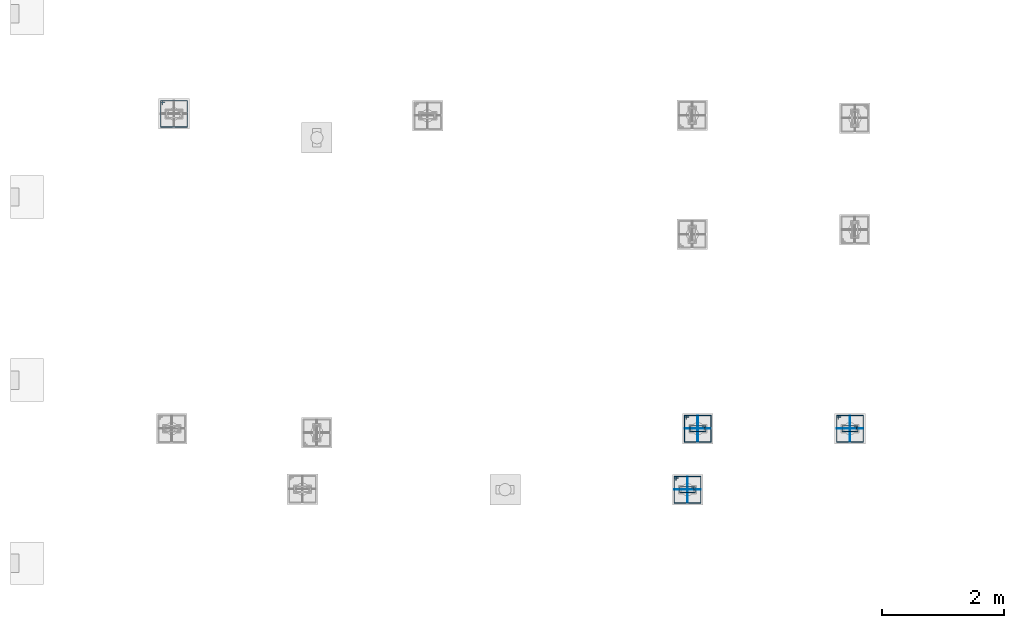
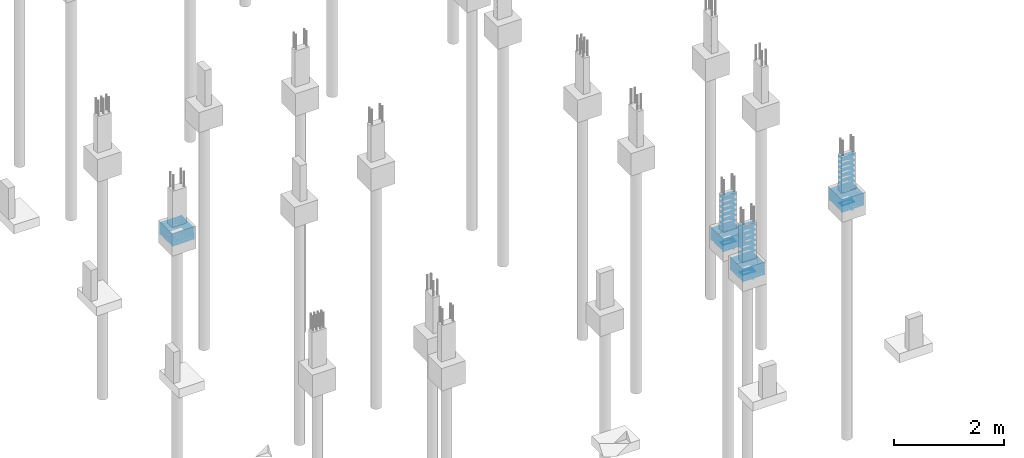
# One storey, part 70 of 119: 56 reinforcing bars.
"""IFC4 building model written with IfcOpenShell, lengths in centimetres."""

from ifc_helpers import new_model, entity, si_unit, derived_unit, frame, origin_with_axes, place, context, project, spatial, source, transform, mapped, element, save


model = new_model("IFC4")

# Units and contexts
model_context = context("Model", 3, precision=1e-05, world=origin_with_axes(), identifier="Body")
ifc_project = project(units=[si_unit("LENGTHUNIT", "METRE", prefix="CENTI"), si_unit("VOLUMEUNIT", "CUBIC_METRE"), si_unit("AREAUNIT", "SQUARE_METRE"), si_unit("POWERUNIT", "WATT"), si_unit("LUMINOUSFLUXUNIT", "LUMEN"), si_unit("ELECTRICCURRENTUNIT", "AMPERE"), si_unit("PRESSUREUNIT", "PASCAL", prefix="KILO"), si_unit("MASSUNIT", "GRAM", prefix="KILO"), si_unit("PLANEANGLEUNIT", "RADIAN"), derived_unit("VOLUMETRICFLOWRATEUNIT", [(si_unit("LENGTHUNIT", "METRE"), 3), (si_unit("TIMEUNIT", "SECOND"), -1)])], contexts=[model_context])

# Site, building, storey
site_placement = place(None, frame((-4000.0, 0.0, 0.0), z_axis=(0.0, 0.0, 1.0), x_axis=(1.0, 0.0, 0.0)))
site = spatial("IfcSite", under=ifc_project, at=site_placement, Name="PADRÃO")
building_placement = place(site_placement, frame((0.0, 0.0, -14.0)))
building = spatial("IfcBuilding", under=site, at=building_placement, Name="CRECHE PRÉ-ESCOLA TIPO 2")
storey_placement = place(building_placement, origin_with_axes())
storey = spatial("IfcBuildingStorey", under=building, at=storey_placement, Name="FUNDAÇÃO", CompositionType="ELEMENT", Elevation=-14.0)

# Reinforcing bars
shared_shape_1 = source(origin_with_axes(), model_context, "Body", "AdvancedSweptSolid", [
    entity("IfcSweptDiskSolid", entity("IfcCompositeCurve", [entity("IfcCompositeCurveSegment", "CONTINUOUS", True, entity("IfcPolyline", [entity("IfcCartesianPoint", [250.335, 1045.925, 0.0]), entity("IfcCartesianPoint", [250.335, 1052.185, 0.0])])), entity("IfcCompositeCurveSegment", "CONTINUOUS", True, entity("IfcPolyline", [entity("IfcCartesianPoint", [250.335, 1052.185, 0.0]), entity("IfcCartesianPoint", [247.815, 1052.185, 0.0])])), entity("IfcCompositeCurveSegment", "CONTINUOUS", True, entity("IfcPolyline", [entity("IfcCartesianPoint", [247.815, 1052.185, 0.0]), entity("IfcCartesianPoint", [247.815, 1008.815, 0.0])])), entity("IfcCompositeCurveSegment", "CONTINUOUS", True, entity("IfcPolyline", [entity("IfcCartesianPoint", [247.815, 1008.815, 0.0]), entity("IfcCartesianPoint", [291.185, 1008.815, 0.63])])), entity("IfcCompositeCurveSegment", "CONTINUOUS", True, entity("IfcPolyline", [entity("IfcCartesianPoint", [291.185, 1008.815, 0.63]), entity("IfcCartesianPoint", [291.185, 1052.185, 0.63])])), entity("IfcCompositeCurveSegment", "CONTINUOUS", True, entity("IfcPolyline", [entity("IfcCartesianPoint", [291.185, 1052.185, 0.63]), entity("IfcCartesianPoint", [247.815, 1052.185, 0.63])])), entity("IfcCompositeCurveSegment", "CONTINUOUS", True, entity("IfcPolyline", [entity("IfcCartesianPoint", [247.815, 1052.185, 0.63]), entity("IfcCartesianPoint", [247.815, 1049.665, 0.63])])), entity("IfcCompositeCurveSegment", "CONTINUOUS", True, entity("IfcPolyline", [entity("IfcCartesianPoint", [247.815, 1049.665, 0.63]), entity("IfcCartesianPoint", [254.075, 1049.665, 0.63])]))], False), 0.315),
])
for number, where, z_axis, x_axis, name in (
    (1, (0.0, 0.0, -97.875), (0.0, 0.0, 1.0), (1.0, 0.0, 0.0), "P116 - Blocos (estribos)"),
    (2, (0.0, 0.0, -103.525), (0.0, 0.0, 1.0), (1.0, 0.0, 0.0), "P116 - Blocos (estribos)"),
    (3, (0.0, 0.0, -109.175), (0.0, 0.0, 1.0), (1.0, 0.0, 0.0), "P116 - Blocos (estribos)"),
    (4, (0.0, 0.0, -86.575), (0.0, 0.0, 1.0), (1.0, 0.0, 0.0), "P116 - Blocos (estribos)"),
    (5, (0.0, 0.0, -92.225), (0.0, 0.0, 1.0), (1.0, 0.0, 0.0), "P116 - Blocos (estribos)"),
):
    element("IfcReinforcingBar", number, at=place(storey_placement, frame(where, z_axis=z_axis, x_axis=x_axis)), inside=storey, Name=name, BarLength=0.0, CrossSectionArea=3.1172453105e-05, NominalDiameter=0.63, PredefinedType="MAIN", context=model_context, shape_type="MappedRepresentation", body=[
        mapped(shared_shape_1, transform((0.0, 0.0, 0.0), scale=1.0)),
    ])
shared_shape_2 = source(origin_with_axes(), model_context, "Body", "AdvancedSweptSolid", [
    entity("IfcSweptDiskSolid", entity("IfcCompositeCurve", [entity("IfcCompositeCurveSegment", "CONTINUOUS", True, entity("IfcPolyline", [entity("IfcCartesianPoint", [4.25, 21.75, 0.0]), entity("IfcCartesianPoint", [4.25, 27.75, 0.0])])), entity("IfcCompositeCurveSegment", "CONTINUOUS", True, entity("IfcPolyline", [entity("IfcCartesianPoint", [4.25, 27.75, 0.0]), entity("IfcCartesianPoint", [2.25, 27.75, 0.0])])), entity("IfcCompositeCurveSegment", "CONTINUOUS", True, entity("IfcPolyline", [entity("IfcCartesianPoint", [2.25, 27.75, 0.0]), entity("IfcCartesianPoint", [2.25, 2.25, 0.0])])), entity("IfcCompositeCurveSegment", "CONTINUOUS", True, entity("IfcPolyline", [entity("IfcCartesianPoint", [2.25, 2.25, 0.0]), entity("IfcCartesianPoint", [11.75, 2.25, 0.0])])), entity("IfcCompositeCurveSegment", "CONTINUOUS", True, entity("IfcPolyline", [entity("IfcCartesianPoint", [11.75, 2.25, 0.0]), entity("IfcCartesianPoint", [11.75, 27.75, -0.5])])), entity("IfcCompositeCurveSegment", "CONTINUOUS", True, entity("IfcPolyline", [entity("IfcCartesianPoint", [11.75, 27.75, -0.5]), entity("IfcCartesianPoint", [2.25, 27.75, -0.5])])), entity("IfcCompositeCurveSegment", "CONTINUOUS", True, entity("IfcPolyline", [entity("IfcCartesianPoint", [2.25, 27.75, -0.5]), entity("IfcCartesianPoint", [2.25, 25.75, -0.5])])), entity("IfcCompositeCurveSegment", "CONTINUOUS", True, entity("IfcPolyline", [entity("IfcCartesianPoint", [2.25, 25.75, -0.5]), entity("IfcCartesianPoint", [8.25, 25.75, -0.5])]))], False), 0.25),
])
for number, where, z_axis, x_axis, name in (
    (6, (1112.72, 522.01, -63.25), (0.0, 0.0, 1.0), (0.0, -1.0, 0.0), "P137 - Estribo"),
    (7, (1112.72, 522.01, -51.75), (0.0, 0.0, 1.0), (0.0, -1.0, 0.0), "P137 - Estribo"),
    (8, (1112.72, 522.01, -74.75), (0.0, 0.0, 1.0), (0.0, -1.0, 0.0), "P137 - Estribo"),
    (9, (1112.72, 522.01, -86.25), (0.0, 0.0, 1.0), (0.0, -1.0, 0.0), "P137 - Estribo"),
    (10, (1112.72, 522.01, -97.75), (0.0, 0.0, 1.0), (0.0, -1.0, 0.0), "P137 - Estribo"),
    (11, (1112.72, 522.01, -109.25), (0.0, 0.0, 1.0), (0.0, -1.0, 0.0), "P137 - Estribo"),
    (12, (1112.72, 522.01, -40.25), (0.0, 0.0, 1.0), (0.0, -1.0, 0.0), "P137 - Estribo"),
    (13, (1112.72, 522.01, -28.75), (0.0, 0.0, 1.0), (0.0, -1.0, 0.0), "P137 - Estribo"),
    (14, (1112.72, 522.01, -17.25), (0.0, 0.0, 1.0), (0.0, -1.0, 0.0), "P137 - Estribo"),
    (15, (1112.72, 522.01, -5.75), (0.0, 0.0, 1.0), (0.0, -1.0, 0.0), "P137 - Estribo"),
):
    element("IfcReinforcingBar", number, at=place(storey_placement, frame(where, z_axis=z_axis, x_axis=x_axis)), inside=storey, Name=name, BarLength=0.0, CrossSectionArea=1.9634954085e-05, NominalDiameter=0.5, PredefinedType="MAIN", context=model_context, shape_type="MappedRepresentation", body=[
        mapped(shared_shape_2, transform((0.0, 0.0, 0.0), scale=1.0)),
    ])
shared_shape_3 = source(origin_with_axes(), model_context, "Body", "AdvancedSweptSolid", [
    entity("IfcSweptDiskSolid", entity("IfcCompositeCurve", [entity("IfcCompositeCurveSegment", "CONTINUOUS", True, entity("IfcPolyline", [entity("IfcCartesianPoint", [1108.555, 530.435, 0.0]), entity("IfcCartesianPoint", [1108.555, 536.695, 0.0])])), entity("IfcCompositeCurveSegment", "CONTINUOUS", True, entity("IfcPolyline", [entity("IfcCartesianPoint", [1108.555, 536.695, 0.0]), entity("IfcCartesianPoint", [1106.035, 536.695, 0.0])])), entity("IfcCompositeCurveSegment", "CONTINUOUS", True, entity("IfcPolyline", [entity("IfcCartesianPoint", [1106.035, 536.695, 0.0]), entity("IfcCartesianPoint", [1106.035, 493.325, 0.0])])), entity("IfcCompositeCurveSegment", "CONTINUOUS", True, entity("IfcPolyline", [entity("IfcCartesianPoint", [1106.035, 493.325, 0.0]), entity("IfcCartesianPoint", [1149.405, 493.325, 0.63])])), entity("IfcCompositeCurveSegment", "CONTINUOUS", True, entity("IfcPolyline", [entity("IfcCartesianPoint", [1149.405, 493.325, 0.63]), entity("IfcCartesianPoint", [1149.405, 536.695, 0.63])])), entity("IfcCompositeCurveSegment", "CONTINUOUS", True, entity("IfcPolyline", [entity("IfcCartesianPoint", [1149.405, 536.695, 0.63]), entity("IfcCartesianPoint", [1106.035, 536.695, 0.63])])), entity("IfcCompositeCurveSegment", "CONTINUOUS", True, entity("IfcPolyline", [entity("IfcCartesianPoint", [1106.035, 536.695, 0.63]), entity("IfcCartesianPoint", [1106.035, 534.175, 0.63])])), entity("IfcCompositeCurveSegment", "CONTINUOUS", True, entity("IfcPolyline", [entity("IfcCartesianPoint", [1106.035, 534.175, 0.63]), entity("IfcCartesianPoint", [1112.295, 534.175, 0.63])]))], False), 0.315),
])
for number, where, z_axis, x_axis, name in (
    (16, (0.0, 0.0, -109.175), (0.0, 0.0, 1.0), (1.0, 0.0, 0.0), "P137 - Blocos (estribos)"),
    (17, (0.0, 0.0, -92.225), (0.0, 0.0, 1.0), (1.0, 0.0, 0.0), "P137 - Blocos (estribos)"),
    (18, (0.0, 0.0, -86.575), (0.0, 0.0, 1.0), (1.0, 0.0, 0.0), "P137 - Blocos (estribos)"),
    (19, (0.0, 0.0, -103.525), (0.0, 0.0, 1.0), (1.0, 0.0, 0.0), "P137 - Blocos (estribos)"),
    (20, (0.0, 0.0, -97.875), (0.0, 0.0, 1.0), (1.0, 0.0, 0.0), "P137 - Blocos (estribos)"),
):
    element("IfcReinforcingBar", number, at=place(storey_placement, frame(where, z_axis=z_axis, x_axis=x_axis)), inside=storey, Name=name, BarLength=0.0, CrossSectionArea=3.1172453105e-05, NominalDiameter=0.63, PredefinedType="MAIN", context=model_context, shape_type="MappedRepresentation", body=[
        mapped(shared_shape_3, transform((0.0, 0.0, 0.0), scale=1.0)),
    ])
shared_shape_4 = source(origin_with_axes(), model_context, "Body", "AdvancedSweptSolid", [
    entity("IfcSweptDiskSolid", entity("IfcCompositeCurve", [entity("IfcCompositeCurveSegment", "CONTINUOUS", True, entity("IfcPolyline", [entity("IfcCartesianPoint", [-15.12, -12.0, 0.0]), entity("IfcCartesianPoint", [-21.12, -12.0, 0.0])])), entity("IfcCompositeCurveSegment", "CONTINUOUS", True, entity("IfcPolyline", [entity("IfcCartesianPoint", [-21.12, -12.0, 0.0]), entity("IfcCartesianPoint", [-21.12, -14.0, 0.0])])), entity("IfcCompositeCurveSegment", "CONTINUOUS", True, entity("IfcPolyline", [entity("IfcCartesianPoint", [-21.12, -14.0, 0.0]), entity("IfcCartesianPoint", [21.12, -14.0, 0.0])])), entity("IfcCompositeCurveSegment", "CONTINUOUS", True, entity("IfcPolyline", [entity("IfcCartesianPoint", [21.12, -14.0, 0.0]), entity("IfcCartesianPoint", [21.12, 14.0, 0.5])])), entity("IfcCompositeCurveSegment", "CONTINUOUS", True, entity("IfcPolyline", [entity("IfcCartesianPoint", [21.12, 14.0, 0.5]), entity("IfcCartesianPoint", [-21.12, 14.0, 0.5])])), entity("IfcCompositeCurveSegment", "CONTINUOUS", True, entity("IfcPolyline", [entity("IfcCartesianPoint", [-21.12, 14.0, 0.5]), entity("IfcCartesianPoint", [-21.12, -14.0, 0.5])])), entity("IfcCompositeCurveSegment", "CONTINUOUS", True, entity("IfcPolyline", [entity("IfcCartesianPoint", [-21.12, -14.0, 0.5]), entity("IfcCartesianPoint", [-19.12, -14.0, 0.5])])), entity("IfcCompositeCurveSegment", "CONTINUOUS", True, entity("IfcPolyline", [entity("IfcCartesianPoint", [-19.12, -14.0, 0.5]), entity("IfcCartesianPoint", [-19.12, -8.0, 0.5])]))], False), 0.25),
])
reinforcing_bar_1_placement = place(storey_placement, frame((1127.72, 515.01, -97.75), z_axis=(0.0, 1.0, 0.0), x_axis=(1.0, 0.0, 0.0)))
element("IfcReinforcingBar", 21, at=reinforcing_bar_1_placement, inside=storey, Name="P137 - Blocos (estribos)", BarLength=0.0, CrossSectionArea=1.9634954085e-05, NominalDiameter=0.5, PredefinedType="MAIN", context=model_context, shape_type="MappedRepresentation", body=[
    mapped(shared_shape_4, transform((0.0, 0.0, 0.0), scale=1.0)),
])
shared_shape_5 = source(origin_with_axes(), model_context, "Body", "AdvancedSweptSolid", [
    entity("IfcSweptDiskSolid", entity("IfcCompositeCurve", [entity("IfcCompositeCurveSegment", "CONTINUOUS", True, entity("IfcPolyline", [entity("IfcCartesianPoint", [-15.12, -12.0, 0.0]), entity("IfcCartesianPoint", [-21.12, -12.0, 0.0])])), entity("IfcCompositeCurveSegment", "CONTINUOUS", True, entity("IfcPolyline", [entity("IfcCartesianPoint", [-21.12, -12.0, 0.0]), entity("IfcCartesianPoint", [-21.12, -14.0, 0.0])])), entity("IfcCompositeCurveSegment", "CONTINUOUS", True, entity("IfcPolyline", [entity("IfcCartesianPoint", [-21.12, -14.0, 0.0]), entity("IfcCartesianPoint", [21.12, -14.0, 0.0])])), entity("IfcCompositeCurveSegment", "CONTINUOUS", True, entity("IfcPolyline", [entity("IfcCartesianPoint", [21.12, -14.0, 0.0]), entity("IfcCartesianPoint", [21.12, 14.0, 0.5])])), entity("IfcCompositeCurveSegment", "CONTINUOUS", True, entity("IfcPolyline", [entity("IfcCartesianPoint", [21.12, 14.0, 0.5]), entity("IfcCartesianPoint", [-21.12, 14.0, 0.5])])), entity("IfcCompositeCurveSegment", "CONTINUOUS", True, entity("IfcPolyline", [entity("IfcCartesianPoint", [-21.12, 14.0, 0.5]), entity("IfcCartesianPoint", [-21.12, -14.0, 0.5])])), entity("IfcCompositeCurveSegment", "CONTINUOUS", True, entity("IfcPolyline", [entity("IfcCartesianPoint", [-21.12, -14.0, 0.5]), entity("IfcCartesianPoint", [-19.12, -14.0, 0.5])])), entity("IfcCompositeCurveSegment", "CONTINUOUS", True, entity("IfcPolyline", [entity("IfcCartesianPoint", [-19.12, -14.0, 0.5]), entity("IfcCartesianPoint", [-19.12, -8.0, 0.5])]))], False), 0.25),
])
reinforcing_bar_2_placement = place(storey_placement, frame((1127.72, 515.01, -97.75), z_axis=(-1.0, 0.0, 0.0), x_axis=(0.0, 1.0, 0.0)))
element("IfcReinforcingBar", 22, at=reinforcing_bar_2_placement, inside=storey, Name="P137 - Blocos (estribos)", BarLength=0.0, CrossSectionArea=1.9634954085e-05, NominalDiameter=0.5, PredefinedType="MAIN", context=model_context, shape_type="MappedRepresentation", body=[
    mapped(shared_shape_5, transform((0.0, 0.0, 0.0), scale=1.0)),
])
shared_shape_6 = source(origin_with_axes(), model_context, "Body", "AdvancedSweptSolid", [
    entity("IfcSweptDiskSolid", entity("IfcCompositeCurve", [entity("IfcCompositeCurveSegment", "CONTINUOUS", True, entity("IfcPolyline", [entity("IfcCartesianPoint", [4.25, 21.75, 0.0]), entity("IfcCartesianPoint", [4.25, 27.75, 0.0])])), entity("IfcCompositeCurveSegment", "CONTINUOUS", True, entity("IfcPolyline", [entity("IfcCartesianPoint", [4.25, 27.75, 0.0]), entity("IfcCartesianPoint", [2.25, 27.75, 0.0])])), entity("IfcCompositeCurveSegment", "CONTINUOUS", True, entity("IfcPolyline", [entity("IfcCartesianPoint", [2.25, 27.75, 0.0]), entity("IfcCartesianPoint", [2.25, 2.25, 0.0])])), entity("IfcCompositeCurveSegment", "CONTINUOUS", True, entity("IfcPolyline", [entity("IfcCartesianPoint", [2.25, 2.25, 0.0]), entity("IfcCartesianPoint", [11.75, 2.25, 0.0])])), entity("IfcCompositeCurveSegment", "CONTINUOUS", True, entity("IfcPolyline", [entity("IfcCartesianPoint", [11.75, 2.25, 0.0]), entity("IfcCartesianPoint", [11.75, 27.75, -0.5])])), entity("IfcCompositeCurveSegment", "CONTINUOUS", True, entity("IfcPolyline", [entity("IfcCartesianPoint", [11.75, 27.75, -0.5]), entity("IfcCartesianPoint", [2.25, 27.75, -0.5])])), entity("IfcCompositeCurveSegment", "CONTINUOUS", True, entity("IfcPolyline", [entity("IfcCartesianPoint", [2.25, 27.75, -0.5]), entity("IfcCartesianPoint", [2.25, 25.75, -0.5])])), entity("IfcCompositeCurveSegment", "CONTINUOUS", True, entity("IfcPolyline", [entity("IfcCartesianPoint", [2.25, 25.75, -0.5]), entity("IfcCartesianPoint", [8.25, 25.75, -0.5])]))], False), 0.25),
])
for number, where, z_axis, x_axis, name in (
    (23, (1361.84, 522.01, -97.75), (0.0, 0.0, 1.0), (0.0, -1.0, 0.0), "P138 - Estribo"),
    (24, (1361.84, 522.01, -74.75), (0.0, 0.0, 1.0), (0.0, -1.0, 0.0), "P138 - Estribo"),
    (25, (1361.84, 522.01, -5.75), (0.0, 0.0, 1.0), (0.0, -1.0, 0.0), "P138 - Estribo"),
    (26, (1361.84, 522.01, -86.25), (0.0, 0.0, 1.0), (0.0, -1.0, 0.0), "P138 - Estribo"),
    (27, (1361.84, 522.01, -40.25), (0.0, 0.0, 1.0), (0.0, -1.0, 0.0), "P138 - Estribo"),
    (28, (1361.84, 522.01, -63.25), (0.0, 0.0, 1.0), (0.0, -1.0, 0.0), "P138 - Estribo"),
    (29, (1361.84, 522.01, -28.75), (0.0, 0.0, 1.0), (0.0, -1.0, 0.0), "P138 - Estribo"),
    (30, (1361.84, 522.01, -17.25), (0.0, 0.0, 1.0), (0.0, -1.0, 0.0), "P138 - Estribo"),
    (31, (1361.84, 522.01, -51.75), (0.0, 0.0, 1.0), (0.0, -1.0, 0.0), "P138 - Estribo"),
    (32, (1361.84, 522.01, -109.25), (0.0, 0.0, 1.0), (0.0, -1.0, 0.0), "P138 - Estribo"),
):
    element("IfcReinforcingBar", number, at=place(storey_placement, frame(where, z_axis=z_axis, x_axis=x_axis)), inside=storey, Name=name, BarLength=0.0, CrossSectionArea=1.9634954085e-05, NominalDiameter=0.5, PredefinedType="MAIN", context=model_context, shape_type="MappedRepresentation", body=[
        mapped(shared_shape_6, transform((0.0, 0.0, 0.0), scale=1.0)),
    ])
shared_shape_7 = source(origin_with_axes(), model_context, "Body", "AdvancedSweptSolid", [
    entity("IfcSweptDiskSolid", entity("IfcCompositeCurve", [entity("IfcCompositeCurveSegment", "CONTINUOUS", True, entity("IfcPolyline", [entity("IfcCartesianPoint", [1357.675, 530.435, 0.0]), entity("IfcCartesianPoint", [1357.675, 536.695, 0.0])])), entity("IfcCompositeCurveSegment", "CONTINUOUS", True, entity("IfcPolyline", [entity("IfcCartesianPoint", [1357.675, 536.695, 0.0]), entity("IfcCartesianPoint", [1355.155, 536.695, 0.0])])), entity("IfcCompositeCurveSegment", "CONTINUOUS", True, entity("IfcPolyline", [entity("IfcCartesianPoint", [1355.155, 536.695, 0.0]), entity("IfcCartesianPoint", [1355.155, 493.325, 0.0])])), entity("IfcCompositeCurveSegment", "CONTINUOUS", True, entity("IfcPolyline", [entity("IfcCartesianPoint", [1355.155, 493.325, 0.0]), entity("IfcCartesianPoint", [1398.525, 493.325, 0.63])])), entity("IfcCompositeCurveSegment", "CONTINUOUS", True, entity("IfcPolyline", [entity("IfcCartesianPoint", [1398.525, 493.325, 0.63]), entity("IfcCartesianPoint", [1398.525, 536.695, 0.63])])), entity("IfcCompositeCurveSegment", "CONTINUOUS", True, entity("IfcPolyline", [entity("IfcCartesianPoint", [1398.525, 536.695, 0.63]), entity("IfcCartesianPoint", [1355.155, 536.695, 0.63])])), entity("IfcCompositeCurveSegment", "CONTINUOUS", True, entity("IfcPolyline", [entity("IfcCartesianPoint", [1355.155, 536.695, 0.63]), entity("IfcCartesianPoint", [1355.155, 534.175, 0.63])])), entity("IfcCompositeCurveSegment", "CONTINUOUS", True, entity("IfcPolyline", [entity("IfcCartesianPoint", [1355.155, 534.175, 0.63]), entity("IfcCartesianPoint", [1361.415, 534.175, 0.63])]))], False), 0.315),
])
for number, where, z_axis, x_axis, name in (
    (33, (0.0, 0.0, -103.525), (0.0, 0.0, 1.0), (1.0, 0.0, 0.0), "P138 - Blocos (estribos)"),
    (34, (0.0, 0.0, -97.875), (0.0, 0.0, 1.0), (1.0, 0.0, 0.0), "P138 - Blocos (estribos)"),
    (35, (0.0, 0.0, -92.225), (0.0, 0.0, 1.0), (1.0, 0.0, 0.0), "P138 - Blocos (estribos)"),
    (36, (0.0, 0.0, -86.575), (0.0, 0.0, 1.0), (1.0, 0.0, 0.0), "P138 - Blocos (estribos)"),
    (37, (0.0, 0.0, -109.175), (0.0, 0.0, 1.0), (1.0, 0.0, 0.0), "P138 - Blocos (estribos)"),
):
    element("IfcReinforcingBar", number, at=place(storey_placement, frame(where, z_axis=z_axis, x_axis=x_axis)), inside=storey, Name=name, BarLength=0.0, CrossSectionArea=3.1172453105e-05, NominalDiameter=0.63, PredefinedType="MAIN", context=model_context, shape_type="MappedRepresentation", body=[
        mapped(shared_shape_7, transform((0.0, 0.0, 0.0), scale=1.0)),
    ])
shared_shape_8 = source(origin_with_axes(), model_context, "Body", "AdvancedSweptSolid", [
    entity("IfcSweptDiskSolid", entity("IfcCompositeCurve", [entity("IfcCompositeCurveSegment", "CONTINUOUS", True, entity("IfcPolyline", [entity("IfcCartesianPoint", [-15.12, -12.0, 0.0]), entity("IfcCartesianPoint", [-21.12, -12.0, 0.0])])), entity("IfcCompositeCurveSegment", "CONTINUOUS", True, entity("IfcPolyline", [entity("IfcCartesianPoint", [-21.12, -12.0, 0.0]), entity("IfcCartesianPoint", [-21.12, -14.0, 0.0])])), entity("IfcCompositeCurveSegment", "CONTINUOUS", True, entity("IfcPolyline", [entity("IfcCartesianPoint", [-21.12, -14.0, 0.0]), entity("IfcCartesianPoint", [21.12, -14.0, 0.0])])), entity("IfcCompositeCurveSegment", "CONTINUOUS", True, entity("IfcPolyline", [entity("IfcCartesianPoint", [21.12, -14.0, 0.0]), entity("IfcCartesianPoint", [21.12, 14.0, 0.5])])), entity("IfcCompositeCurveSegment", "CONTINUOUS", True, entity("IfcPolyline", [entity("IfcCartesianPoint", [21.12, 14.0, 0.5]), entity("IfcCartesianPoint", [-21.12, 14.0, 0.5])])), entity("IfcCompositeCurveSegment", "CONTINUOUS", True, entity("IfcPolyline", [entity("IfcCartesianPoint", [-21.12, 14.0, 0.5]), entity("IfcCartesianPoint", [-21.12, -14.0, 0.5])])), entity("IfcCompositeCurveSegment", "CONTINUOUS", True, entity("IfcPolyline", [entity("IfcCartesianPoint", [-21.12, -14.0, 0.5]), entity("IfcCartesianPoint", [-19.12, -14.0, 0.5])])), entity("IfcCompositeCurveSegment", "CONTINUOUS", True, entity("IfcPolyline", [entity("IfcCartesianPoint", [-19.12, -14.0, 0.5]), entity("IfcCartesianPoint", [-19.12, -8.0, 0.5])]))], False), 0.25),
])
reinforcing_bar_3_placement = place(storey_placement, frame((1376.84, 515.01, -97.75), z_axis=(0.0, 1.0, 0.0), x_axis=(1.0, 0.0, 0.0)))
element("IfcReinforcingBar", 38, at=reinforcing_bar_3_placement, inside=storey, Name="P138 - Blocos (estribos)", BarLength=0.0, CrossSectionArea=1.9634954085e-05, NominalDiameter=0.5, PredefinedType="MAIN", context=model_context, shape_type="MappedRepresentation", body=[
    mapped(shared_shape_8, transform((0.0, 0.0, 0.0), scale=1.0)),
])
shared_shape_9 = source(origin_with_axes(), model_context, "Body", "AdvancedSweptSolid", [
    entity("IfcSweptDiskSolid", entity("IfcCompositeCurve", [entity("IfcCompositeCurveSegment", "CONTINUOUS", True, entity("IfcPolyline", [entity("IfcCartesianPoint", [-15.12, -12.0, 0.0]), entity("IfcCartesianPoint", [-21.12, -12.0, 0.0])])), entity("IfcCompositeCurveSegment", "CONTINUOUS", True, entity("IfcPolyline", [entity("IfcCartesianPoint", [-21.12, -12.0, 0.0]), entity("IfcCartesianPoint", [-21.12, -14.0, 0.0])])), entity("IfcCompositeCurveSegment", "CONTINUOUS", True, entity("IfcPolyline", [entity("IfcCartesianPoint", [-21.12, -14.0, 0.0]), entity("IfcCartesianPoint", [21.12, -14.0, 0.0])])), entity("IfcCompositeCurveSegment", "CONTINUOUS", True, entity("IfcPolyline", [entity("IfcCartesianPoint", [21.12, -14.0, 0.0]), entity("IfcCartesianPoint", [21.12, 14.0, 0.5])])), entity("IfcCompositeCurveSegment", "CONTINUOUS", True, entity("IfcPolyline", [entity("IfcCartesianPoint", [21.12, 14.0, 0.5]), entity("IfcCartesianPoint", [-21.12, 14.0, 0.5])])), entity("IfcCompositeCurveSegment", "CONTINUOUS", True, entity("IfcPolyline", [entity("IfcCartesianPoint", [-21.12, 14.0, 0.5]), entity("IfcCartesianPoint", [-21.12, -14.0, 0.5])])), entity("IfcCompositeCurveSegment", "CONTINUOUS", True, entity("IfcPolyline", [entity("IfcCartesianPoint", [-21.12, -14.0, 0.5]), entity("IfcCartesianPoint", [-19.12, -14.0, 0.5])])), entity("IfcCompositeCurveSegment", "CONTINUOUS", True, entity("IfcPolyline", [entity("IfcCartesianPoint", [-19.12, -14.0, 0.5]), entity("IfcCartesianPoint", [-19.12, -8.0, 0.5])]))], False), 0.25),
])
reinforcing_bar_4_placement = place(storey_placement, frame((1376.84, 515.01, -97.75), z_axis=(-1.0, 0.0, 0.0), x_axis=(0.0, 1.0, 0.0)))
element("IfcReinforcingBar", 39, at=reinforcing_bar_4_placement, inside=storey, Name="P138 - Blocos (estribos)", BarLength=0.0, CrossSectionArea=1.9634954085e-05, NominalDiameter=0.5, PredefinedType="MAIN", context=model_context, shape_type="MappedRepresentation", body=[
    mapped(shared_shape_9, transform((0.0, 0.0, 0.0), scale=1.0)),
])
shared_shape_10 = source(origin_with_axes(), model_context, "Body", "AdvancedSweptSolid", [
    entity("IfcSweptDiskSolid", entity("IfcCompositeCurve", [entity("IfcCompositeCurveSegment", "CONTINUOUS", True, entity("IfcPolyline", [entity("IfcCartesianPoint", [4.25, 21.75, 0.0]), entity("IfcCartesianPoint", [4.25, 27.75, 0.0])])), entity("IfcCompositeCurveSegment", "CONTINUOUS", True, entity("IfcPolyline", [entity("IfcCartesianPoint", [4.25, 27.75, 0.0]), entity("IfcCartesianPoint", [2.25, 27.75, 0.0])])), entity("IfcCompositeCurveSegment", "CONTINUOUS", True, entity("IfcPolyline", [entity("IfcCartesianPoint", [2.25, 27.75, 0.0]), entity("IfcCartesianPoint", [2.25, 2.25, 0.0])])), entity("IfcCompositeCurveSegment", "CONTINUOUS", True, entity("IfcPolyline", [entity("IfcCartesianPoint", [2.25, 2.25, 0.0]), entity("IfcCartesianPoint", [11.75, 2.25, 0.0])])), entity("IfcCompositeCurveSegment", "CONTINUOUS", True, entity("IfcPolyline", [entity("IfcCartesianPoint", [11.75, 2.25, 0.0]), entity("IfcCartesianPoint", [11.75, 27.75, -0.5])])), entity("IfcCompositeCurveSegment", "CONTINUOUS", True, entity("IfcPolyline", [entity("IfcCartesianPoint", [11.75, 27.75, -0.5]), entity("IfcCartesianPoint", [2.25, 27.75, -0.5])])), entity("IfcCompositeCurveSegment", "CONTINUOUS", True, entity("IfcPolyline", [entity("IfcCartesianPoint", [2.25, 27.75, -0.5]), entity("IfcCartesianPoint", [2.25, 25.75, -0.5])])), entity("IfcCompositeCurveSegment", "CONTINUOUS", True, entity("IfcPolyline", [entity("IfcCartesianPoint", [2.25, 25.75, -0.5]), entity("IfcCartesianPoint", [8.25, 25.75, -0.5])]))], False), 0.25),
])
for number, where, z_axis, x_axis, name in (
    (40, (1095.72, 422.01, -109.25), (0.0, 0.0, 1.0), (0.0, -1.0, 0.0), "P145 - Estribo"),
    (41, (1095.72, 422.01, -28.75), (0.0, 0.0, 1.0), (0.0, -1.0, 0.0), "P145 - Estribo"),
    (42, (1095.72, 422.01, -5.75), (0.0, 0.0, 1.0), (0.0, -1.0, 0.0), "P145 - Estribo"),
    (43, (1095.72, 422.01, -17.25), (0.0, 0.0, 1.0), (0.0, -1.0, 0.0), "P145 - Estribo"),
    (44, (1095.72, 422.01, -40.25), (0.0, 0.0, 1.0), (0.0, -1.0, 0.0), "P145 - Estribo"),
    (45, (1095.72, 422.01, -51.75), (0.0, 0.0, 1.0), (0.0, -1.0, 0.0), "P145 - Estribo"),
    (46, (1095.72, 422.01, -63.25), (0.0, 0.0, 1.0), (0.0, -1.0, 0.0), "P145 - Estribo"),
    (47, (1095.72, 422.01, -74.75), (0.0, 0.0, 1.0), (0.0, -1.0, 0.0), "P145 - Estribo"),
    (48, (1095.72, 422.01, -86.25), (0.0, 0.0, 1.0), (0.0, -1.0, 0.0), "P145 - Estribo"),
    (49, (1095.72, 422.01, -97.75), (0.0, 0.0, 1.0), (0.0, -1.0, 0.0), "P145 - Estribo"),
):
    element("IfcReinforcingBar", number, at=place(storey_placement, frame(where, z_axis=z_axis, x_axis=x_axis)), inside=storey, Name=name, BarLength=0.0, CrossSectionArea=1.9634954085e-05, NominalDiameter=0.5, PredefinedType="MAIN", context=model_context, shape_type="MappedRepresentation", body=[
        mapped(shared_shape_10, transform((0.0, 0.0, 0.0), scale=1.0)),
    ])
shared_shape_11 = source(origin_with_axes(), model_context, "Body", "AdvancedSweptSolid", [
    entity("IfcSweptDiskSolid", entity("IfcCompositeCurve", [entity("IfcCompositeCurveSegment", "CONTINUOUS", True, entity("IfcPolyline", [entity("IfcCartesianPoint", [1091.555, 430.435, 0.0]), entity("IfcCartesianPoint", [1091.555, 436.695, 0.0])])), entity("IfcCompositeCurveSegment", "CONTINUOUS", True, entity("IfcPolyline", [entity("IfcCartesianPoint", [1091.555, 436.695, 0.0]), entity("IfcCartesianPoint", [1089.035, 436.695, 0.0])])), entity("IfcCompositeCurveSegment", "CONTINUOUS", True, entity("IfcPolyline", [entity("IfcCartesianPoint", [1089.035, 436.695, 0.0]), entity("IfcCartesianPoint", [1089.035, 393.325, 0.0])])), entity("IfcCompositeCurveSegment", "CONTINUOUS", True, entity("IfcPolyline", [entity("IfcCartesianPoint", [1089.035, 393.325, 0.0]), entity("IfcCartesianPoint", [1132.405, 393.325, 0.63])])), entity("IfcCompositeCurveSegment", "CONTINUOUS", True, entity("IfcPolyline", [entity("IfcCartesianPoint", [1132.405, 393.325, 0.63]), entity("IfcCartesianPoint", [1132.405, 436.695, 0.63])])), entity("IfcCompositeCurveSegment", "CONTINUOUS", True, entity("IfcPolyline", [entity("IfcCartesianPoint", [1132.405, 436.695, 0.63]), entity("IfcCartesianPoint", [1089.035, 436.695, 0.63])])), entity("IfcCompositeCurveSegment", "CONTINUOUS", True, entity("IfcPolyline", [entity("IfcCartesianPoint", [1089.035, 436.695, 0.63]), entity("IfcCartesianPoint", [1089.035, 434.175, 0.63])])), entity("IfcCompositeCurveSegment", "CONTINUOUS", True, entity("IfcPolyline", [entity("IfcCartesianPoint", [1089.035, 434.175, 0.63]), entity("IfcCartesianPoint", [1095.295, 434.175, 0.63])]))], False), 0.315),
])
for number, where, z_axis, x_axis, name in (
    (50, (0.0, 0.0, -97.875), (0.0, 0.0, 1.0), (1.0, 0.0, 0.0), "P145 - Blocos (estribos)"),
    (51, (0.0, 0.0, -92.225), (0.0, 0.0, 1.0), (1.0, 0.0, 0.0), "P145 - Blocos (estribos)"),
    (52, (0.0, 0.0, -86.575), (0.0, 0.0, 1.0), (1.0, 0.0, 0.0), "P145 - Blocos (estribos)"),
    (53, (0.0, 0.0, -109.175), (0.0, 0.0, 1.0), (1.0, 0.0, 0.0), "P145 - Blocos (estribos)"),
    (54, (0.0, 0.0, -103.525), (0.0, 0.0, 1.0), (1.0, 0.0, 0.0), "P145 - Blocos (estribos)"),
):
    element("IfcReinforcingBar", number, at=place(storey_placement, frame(where, z_axis=z_axis, x_axis=x_axis)), inside=storey, Name=name, BarLength=0.0, CrossSectionArea=3.1172453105e-05, NominalDiameter=0.63, PredefinedType="MAIN", context=model_context, shape_type="MappedRepresentation", body=[
        mapped(shared_shape_11, transform((0.0, 0.0, 0.0), scale=1.0)),
    ])
shared_shape_12 = source(origin_with_axes(), model_context, "Body", "AdvancedSweptSolid", [
    entity("IfcSweptDiskSolid", entity("IfcCompositeCurve", [entity("IfcCompositeCurveSegment", "CONTINUOUS", True, entity("IfcPolyline", [entity("IfcCartesianPoint", [-15.12, -12.0, 0.0]), entity("IfcCartesianPoint", [-21.12, -12.0, 0.0])])), entity("IfcCompositeCurveSegment", "CONTINUOUS", True, entity("IfcPolyline", [entity("IfcCartesianPoint", [-21.12, -12.0, 0.0]), entity("IfcCartesianPoint", [-21.12, -14.0, 0.0])])), entity("IfcCompositeCurveSegment", "CONTINUOUS", True, entity("IfcPolyline", [entity("IfcCartesianPoint", [-21.12, -14.0, 0.0]), entity("IfcCartesianPoint", [21.12, -14.0, 0.0])])), entity("IfcCompositeCurveSegment", "CONTINUOUS", True, entity("IfcPolyline", [entity("IfcCartesianPoint", [21.12, -14.0, 0.0]), entity("IfcCartesianPoint", [21.12, 14.0, 0.5])])), entity("IfcCompositeCurveSegment", "CONTINUOUS", True, entity("IfcPolyline", [entity("IfcCartesianPoint", [21.12, 14.0, 0.5]), entity("IfcCartesianPoint", [-21.12, 14.0, 0.5])])), entity("IfcCompositeCurveSegment", "CONTINUOUS", True, entity("IfcPolyline", [entity("IfcCartesianPoint", [-21.12, 14.0, 0.5]), entity("IfcCartesianPoint", [-21.12, -14.0, 0.5])])), entity("IfcCompositeCurveSegment", "CONTINUOUS", True, entity("IfcPolyline", [entity("IfcCartesianPoint", [-21.12, -14.0, 0.5]), entity("IfcCartesianPoint", [-19.12, -14.0, 0.5])])), entity("IfcCompositeCurveSegment", "CONTINUOUS", True, entity("IfcPolyline", [entity("IfcCartesianPoint", [-19.12, -14.0, 0.5]), entity("IfcCartesianPoint", [-19.12, -8.0, 0.5])]))], False), 0.25),
])
reinforcing_bar_5_placement = place(storey_placement, frame((1110.72, 415.01, -97.75), z_axis=(0.0, 1.0, 0.0), x_axis=(1.0, 0.0, 0.0)))
element("IfcReinforcingBar", 55, at=reinforcing_bar_5_placement, inside=storey, Name="P145 - Blocos (estribos)", BarLength=0.0, CrossSectionArea=1.9634954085e-05, NominalDiameter=0.5, PredefinedType="MAIN", context=model_context, shape_type="MappedRepresentation", body=[
    mapped(shared_shape_12, transform((0.0, 0.0, 0.0), scale=1.0)),
])
shared_shape_13 = source(origin_with_axes(), model_context, "Body", "AdvancedSweptSolid", [
    entity("IfcSweptDiskSolid", entity("IfcCompositeCurve", [entity("IfcCompositeCurveSegment", "CONTINUOUS", True, entity("IfcPolyline", [entity("IfcCartesianPoint", [-15.12, -12.0, 0.0]), entity("IfcCartesianPoint", [-21.12, -12.0, 0.0])])), entity("IfcCompositeCurveSegment", "CONTINUOUS", True, entity("IfcPolyline", [entity("IfcCartesianPoint", [-21.12, -12.0, 0.0]), entity("IfcCartesianPoint", [-21.12, -14.0, 0.0])])), entity("IfcCompositeCurveSegment", "CONTINUOUS", True, entity("IfcPolyline", [entity("IfcCartesianPoint", [-21.12, -14.0, 0.0]), entity("IfcCartesianPoint", [21.12, -14.0, 0.0])])), entity("IfcCompositeCurveSegment", "CONTINUOUS", True, entity("IfcPolyline", [entity("IfcCartesianPoint", [21.12, -14.0, 0.0]), entity("IfcCartesianPoint", [21.12, 14.0, 0.5])])), entity("IfcCompositeCurveSegment", "CONTINUOUS", True, entity("IfcPolyline", [entity("IfcCartesianPoint", [21.12, 14.0, 0.5]), entity("IfcCartesianPoint", [-21.12, 14.0, 0.5])])), entity("IfcCompositeCurveSegment", "CONTINUOUS", True, entity("IfcPolyline", [entity("IfcCartesianPoint", [-21.12, 14.0, 0.5]), entity("IfcCartesianPoint", [-21.12, -14.0, 0.5])])), entity("IfcCompositeCurveSegment", "CONTINUOUS", True, entity("IfcPolyline", [entity("IfcCartesianPoint", [-21.12, -14.0, 0.5]), entity("IfcCartesianPoint", [-19.12, -14.0, 0.5])])), entity("IfcCompositeCurveSegment", "CONTINUOUS", True, entity("IfcPolyline", [entity("IfcCartesianPoint", [-19.12, -14.0, 0.5]), entity("IfcCartesianPoint", [-19.12, -8.0, 0.5])]))], False), 0.25),
])
reinforcing_bar_6_placement = place(storey_placement, frame((1110.72, 415.01, -97.75), z_axis=(-1.0, 0.0, 0.0), x_axis=(0.0, 1.0, 0.0)))
element("IfcReinforcingBar", 56, at=reinforcing_bar_6_placement, inside=storey, Name="P145 - Blocos (estribos)", BarLength=0.0, CrossSectionArea=1.9634954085e-05, NominalDiameter=0.5, PredefinedType="MAIN", context=model_context, shape_type="MappedRepresentation", body=[
    mapped(shared_shape_13, transform((0.0, 0.0, 0.0), scale=1.0)),
])

save(model, "model.ifc")
